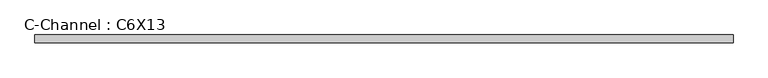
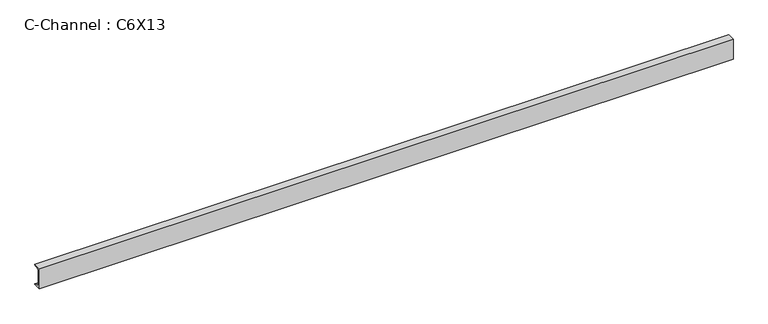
"""IFC4 building model written with IfcOpenShell, lengths in millimetres: beam geometry, C-Channel : C6X13."""

import ifcopenshell
import ifcopenshell.guid

model = None  # the IFC model being written
_history = None  # IfcOwnerHistory: only IFC2X3 demands one
_inside = {}  # id of a spatial element -> (the spatial element, [elements in it])
_under = {}  # id of a project, library or spatial element -> (it, [spatial elements below it])
_declared = {}  # id of a project -> (the project, [libraries it declares])
_typed = {}  # id of a type object -> (the type object, [elements of that type])
_made_of = {}  # id of a material, layer set ... -> (it, [elements and type objects made of it])


def new_model(schema):
    """Start an empty IFC model of exactly this schema.

    Asked for "IFC4X3", IfcOpenShell would pick the latest addendum, in which some entities
    have other attributes; the version numbers below select the first issue.
    IFC2X3 requires an IfcOwnerHistory on every rooted entity: one is made here for all.
    """
    global model, _history
    if schema == "IFC4X3":
        model = ifcopenshell.file(schema_version=(4, 3, 0, 0))
    else:
        model = ifcopenshell.file(schema=schema)
    _inside.clear()
    _under.clear()
    _declared.clear()
    _typed.clear()
    _made_of.clear()
    _history = None
    if model.schema == "IFC2X3":
        org = make("IfcOrganization", Name="unknown")
        user = make(
            "IfcPersonAndOrganization",
            ThePerson=make("IfcPerson", FamilyName="unknown"),
            TheOrganization=org,
        )
        app = make(
            "IfcApplication",
            ApplicationDeveloper=org,
            Version="unknown",
            ApplicationFullName="unknown",
            ApplicationIdentifier="unknown",
        )
        _history = make(
            "IfcOwnerHistory",
            OwningUser=user,
            OwningApplication=app,
            ChangeAction="ADDED",
            CreationDate=0,
        )
    return model


def make(cls, **values):
    """One entity of the class cls with the attributes given. An attribute that is None is left unset."""
    return model.create_entity(
        cls, **{name: value for name, value in values.items() if value is not None}
    )


def rooted(cls, **values):
    """An entity with a GlobalId (a new one), such as an element, a storey or a relation."""
    return make(cls, GlobalId=ifcopenshell.guid.new(), OwnerHistory=_history, **values)


def si_unit(unit_type, name, prefix=None):
    """IfcSIUnit, for example si_unit("LENGTHUNIT", "METRE", prefix="MILLI")."""
    return make("IfcSIUnit", UnitType=unit_type, Prefix=prefix, Name=name)


def assignment(units):
    """IfcUnitAssignment: the units of a project."""
    return None if units is None else make("IfcUnitAssignment", Units=units)


def point(xyz):
    """IfcCartesianPoint."""
    return None if xyz is None else make("IfcCartesianPoint", Coordinates=xyz)


def direction(xyz):
    """IfcDirection."""
    return None if xyz is None else make("IfcDirection", DirectionRatios=xyz)


def frame(location, z_axis=None, x_axis=None):
    """IfcAxis2Placement3D, a coordinate frame: its origin and axes. An axis left out is left unset."""
    return make(
        "IfcAxis2Placement3D",
        Location=point(location),
        Axis=direction(z_axis),
        RefDirection=direction(x_axis),
    )


def frame_2d(location, x_axis=None):
    """IfcAxis2Placement2D, a coordinate frame in the plane: its origin and x axis."""
    return make(
        "IfcAxis2Placement2D", Location=point(location), RefDirection=direction(x_axis)
    )


def origin():
    """The frame at (0, 0, 0) with its axes left unset."""
    return frame((0.0, 0.0, 0.0))


def place(relative_to, where):
    """IfcLocalPlacement: puts the frame where relative to a parent placement (None: the world)."""
    return make(
        "IfcLocalPlacement", PlacementRelTo=relative_to, RelativePlacement=where
    )


def context(
    kind, dimensions, precision=None, world=None, true_north=None, identifier=None
):
    """IfcGeometricRepresentationContext, for example the 3D "Model" context."""
    return make(
        "IfcGeometricRepresentationContext",
        ContextIdentifier=identifier,
        ContextType=kind,
        CoordinateSpaceDimension=dimensions,
        Precision=precision,
        WorldCoordinateSystem=world,
        TrueNorth=true_north,
    )


def project(units=None, contexts=None):
    """IfcProject with its units and contexts."""
    return rooted(
        "IfcProject",
        Name="project",
        RepresentationContexts=contexts,
        UnitsInContext=assignment(units),
    )


def spatial(cls, under=None, at=None, **own):
    """A site, building, storey or space (cls), placed at a placement, below another one or the project."""
    s = rooted(cls, ObjectPlacement=at, **own)
    if under is not None:
        _under.setdefault(under.id(), (under, []))[1].append(s)
    return s


def polyline(points):
    """IfcPolyline through the points."""
    return make("IfcPolyline", Points=[point(p) for p in points])


def circle_curve(where, radius):
    """IfcCircle in the frame where."""
    return make("IfcCircle", Position=where, Radius=radius)


def trimmed(basis, trim1, trim2, sense, master):
    """IfcTrimmedCurve: the piece of a basis curve between two trims."""
    return make(
        "IfcTrimmedCurve",
        BasisCurve=basis,
        Trim1=trim1,
        Trim2=trim2,
        SenseAgreement=sense,
        MasterRepresentation=master,
    )


def segment(curve, same_sense, transition):
    """IfcCompositeCurveSegment."""
    return make(
        "IfcCompositeCurveSegment",
        Transition=transition,
        SameSense=same_sense,
        ParentCurve=curve,
    )


def composite_curve(segments, self_intersect=None):
    """IfcCompositeCurve: segments joined end to end."""
    return make("IfcCompositeCurve", Segments=segments, SelfIntersect=self_intersect)


def outline(outer, holes=None, kind="AREA"):
    """IfcArbitraryClosedProfileDef: a profile drawn as a closed curve; with holes, ...WithVoids."""
    if holes is None:
        return make("IfcArbitraryClosedProfileDef", ProfileType=kind, OuterCurve=outer)
    return make(
        "IfcArbitraryProfileDefWithVoids",
        ProfileType=kind,
        OuterCurve=outer,
        InnerCurves=holes,
    )


def extrude(swept, where, along, depth):
    """IfcExtrudedAreaSolid: the profile swept, set in the frame where, extruded along a direction by depth."""
    return make(
        "IfcExtrudedAreaSolid",
        SweptArea=swept,
        Position=where,
        ExtrudedDirection=direction(along),
        Depth=depth,
    )


def shape(context_of_items, identifier, shape_type, items):
    """IfcShapeRepresentation: the items that make up one representation, for example the "Body"."""
    return make(
        "IfcShapeRepresentation",
        ContextOfItems=context_of_items,
        RepresentationIdentifier=identifier,
        RepresentationType=shape_type,
        Items=items,
    )


def source(mapping_origin, context_of_items, identifier, shape_type, items):
    """IfcRepresentationMap: a shape defined once, which mapped items show again and again."""
    return make(
        "IfcRepresentationMap",
        MappingOrigin=mapping_origin,
        MappedRepresentation=shape(context_of_items, identifier, shape_type, items),
    )


def transform(
    local_origin,
    x_axis=None,
    y_axis=None,
    z_axis=None,
    scale=None,
    scale2=None,
    scale3=None,
    uniform=True,
):
    """IfcCartesianTransformationOperator3D, or its non-uniform kind. x_axis, y_axis, z_axis: its Axis1, 2, 3."""
    if uniform:
        return make(
            "IfcCartesianTransformationOperator3D",
            Axis1=direction(x_axis),
            Axis2=direction(y_axis),
            LocalOrigin=point(local_origin),
            Scale=scale,
            Axis3=direction(z_axis),
        )
    return make(
        "IfcCartesianTransformationOperator3DnonUniform",
        Axis1=direction(x_axis),
        Axis2=direction(y_axis),
        LocalOrigin=point(local_origin),
        Scale=scale,
        Axis3=direction(z_axis),
        Scale2=scale2,
        Scale3=scale3,
    )


def mapped(mapping_source, mapping_target):
    """IfcMappedItem: shows the shape of a source again, moved by a transform."""
    return make(
        "IfcMappedItem", MappingSource=mapping_source, MappingTarget=mapping_target
    )


def made_of(thing, what):
    """Note that an element or type object is made of a material, layer set ...; save() writes the relation."""
    if what is not None:
        _made_of.setdefault(what.id(), (what, []))[1].append(thing)
    return thing


def element(
    cls,
    number,
    at=None,
    inside=None,
    cuts=None,
    type_object=None,
    material=None,
    context=None,
    identifier="Body",
    shape_type=None,
    held_by="IfcProductDefinitionShape",
    body=None,
    shapes=None,
    **own,
):
    """One element of the class cls, such as IfcWall. Its Tag is "e" and its number.

    at: its placement. inside: the storey or other place that contains it. cuts: it is an
    opening in that element (IfcRelVoidsElement). A single representation is given by context,
    identifier, shape_type and body (its items); several are given by shapes. held_by: the class
    of the entity that holds the representations. save() writes the other relations.
    """
    e = rooted(cls, Tag="e%d" % number, ObjectPlacement=at, **own)
    if body is not None:
        shapes = [shape(context, identifier, shape_type, body)]
    if shapes is not None:
        e.Representation = make(held_by, Representations=shapes)
    if inside is not None:
        _inside.setdefault(inside.id(), (inside, []))[1].append(e)
    if cuts is not None:
        rooted(
            "IfcRelVoidsElement", RelatingBuildingElement=cuts, RelatedOpeningElement=e
        )
    if type_object is not None:
        _typed.setdefault(type_object.id(), (type_object, []))[1].append(e)
    return made_of(e, material)


def aggregate(whole, parts):
    """IfcRelAggregates: a whole, such as a stair, and the parts it consists of."""
    return rooted("IfcRelAggregates", RelatingObject=whole, RelatedObjects=parts)


def save(model, path):
    """Write the relations noted so far, then the file.

    IfcRelAggregates (storeys below a building ...), IfcRelContainedInSpatialStructure (elements
    in a storey), IfcRelDefinesByType, IfcRelAssociatesMaterial and IfcRelDeclares: one each for
    every whole, place, type object, material and project.
    """
    for whole, parts in _under.values():
        aggregate(whole, parts)
    for where, things in _inside.values():
        rooted(
            "IfcRelContainedInSpatialStructure",
            RelatedElements=things,
            RelatingStructure=where,
        )
    for kind, things in _typed.values():
        rooted("IfcRelDefinesByType", RelatedObjects=things, RelatingType=kind)
    for what, things in _made_of.values():
        rooted("IfcRelAssociatesMaterial", RelatedObjects=things, RelatingMaterial=what)
    for by, libraries in _declared.values():
        rooted("IfcRelDeclares", RelatingContext=by, RelatedDefinitions=libraries)
    model.write(path)


def c_channel_c6x13_45790efd(model_context):
    return source(origin(), model_context, "Body", "SweptSolid", [
        extrude(outline(composite_curve([segment(polyline([(-13.0556, 76.2), (41.8084, 76.2)]), True, "CONTINUOUS"), segment(trimmed(circle_curve(frame_2d((33.0962, 76.2)), 8.7122), [point((41.8084, 76.2))], [point((33.0962, 67.4878))], False, "CARTESIAN"), True, "CONTINUOUS"), segment(polyline([(33.0962, 67.4878), (-1.9558, 61.9361086), (-1.9558, -61.9361086), (33.0962, -67.4878)]), True, "CONTINUOUS"), segment(trimmed(circle_curve(frame_2d((33.0962, -76.2)), 8.7122), [point((33.0962, -67.4878))], [point((41.8084, -76.2))], False, "CARTESIAN"), True, "CONTINUOUS"), segment(polyline([(41.8084, -76.2), (-13.0556, -76.2), (-13.0556, 76.2)]), True, "CONTINUOUS")], self_intersect=False)), frame((-2487.3002291, 0.0, 0.0), z_axis=(1.0, 0.0, 0.0), x_axis=(0.0, 1.0, 0.0)), (0.0, 0.0, 1.0), 4974.5644077),
    ])


if __name__ == "__main__":
    model = new_model("IFC4")
    model_context = context("Model", 3, world=origin())
    ifc_project = project(units=[si_unit("LENGTHUNIT", "METRE", prefix="MILLI")], contexts=[model_context])
    site = spatial("IfcSite", under=ifc_project)
    building = spatial("IfcBuilding", under=site)
    placement = place(None, origin())
    c_channel_c6x13_shape = c_channel_c6x13_45790efd(model_context)
    element("IfcBeam", 1, ObjectType="C-Channel : C6X13", at=placement, inside=building, context=model_context, shape_type="MappedRepresentation", body=[
        mapped(c_channel_c6x13_shape, transform((0.0, 0.0, 0.0), x_axis=(1.0, 0.0, 0.0), y_axis=(0.0, 1.0, 0.0), z_axis=(0.0, 0.0, 1.0))),
    ])
    save(model, "model.ifc")
